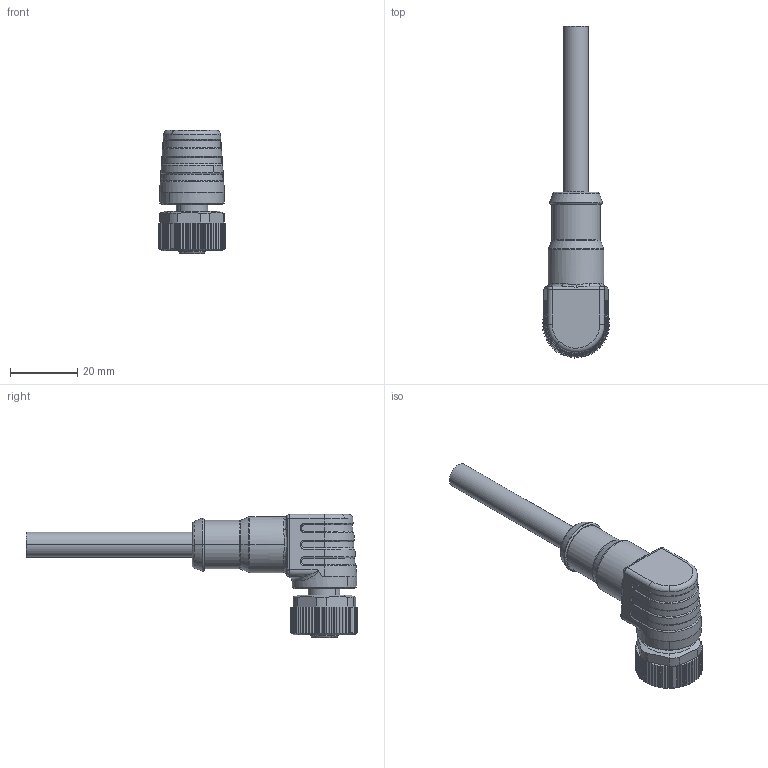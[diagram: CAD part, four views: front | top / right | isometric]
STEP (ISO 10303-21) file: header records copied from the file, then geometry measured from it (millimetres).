
FILE_DESCRIPTION (( 'STEP AP203' ), '1' );
FILE_NAME ('64S481-XXX.STEP', '2024-09-27T08:36:10', ( 'L' ), ( '' ), 'SwSTEP 2.0', 'SolidWorks 2019', '' );
FILE_SCHEMA (( 'CONFIG_CONTROL_DESIGN' ));
Length unit declared in the file: millimetre
Products named in the file (1): 64S481-XXX
Bounding box: 19.98 x 98.74 x 36.65 mm (x, y, z)
Volume: 17514.2 mm3; surface area: 7104.3 mm2
Topology: 1 solids, 1 shells, 472 faces, 1304 edges, 866 vertices
Faces by surface type: plane 201, cylinder 159, cone 64, bspline 34, torus 14
Entity records: 77227 total; most frequent: CARTESIAN_POINT 65578, ORIENTED_EDGE 2608, DIRECTION 2190, EDGE_CURVE 1304, VERTEX_POINT 866, AXIS2_PLACEMENT_3D 810, LINE 570, VECTOR 570
